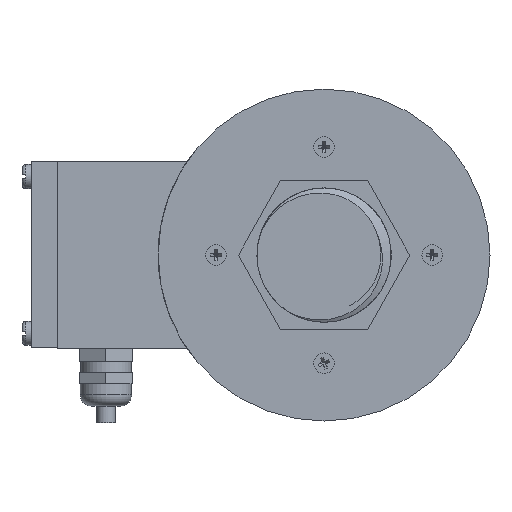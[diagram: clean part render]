
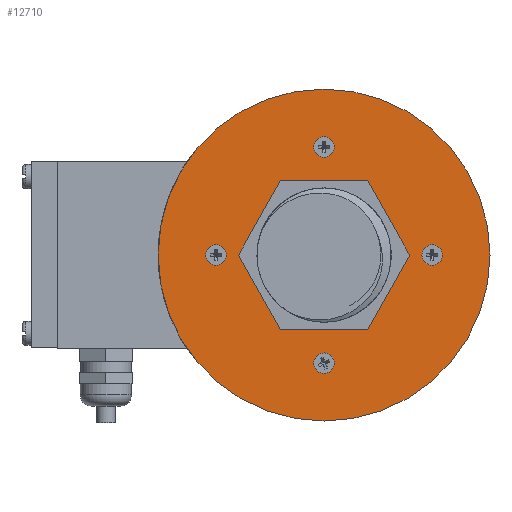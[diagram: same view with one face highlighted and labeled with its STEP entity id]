
A CAD part, front view. The second image highlights one B-rep face of the part: STEP entity #12710.
In plain terms, the highlighted planar face has unit normal (0, -1, 0).
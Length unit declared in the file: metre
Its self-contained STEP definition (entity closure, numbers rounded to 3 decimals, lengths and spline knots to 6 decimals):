
#381 = CARTESIAN_POINT ( 'NONE',  ( -0.01173, 0.003431, 0.00775 ) ) ;
#382 = DIRECTION ( 'NONE',  ( 0., -1., 0. ) ) ;
#383 = DIRECTION ( 'NONE',  ( 0., 0., -1. ) ) ;
#441 = CARTESIAN_POINT ( 'NONE',  ( -0.04073, 0.003431, 0.00775 ) ) ;
#442 = DIRECTION ( 'NONE',  ( 0., 1., 0. ) ) ;
#443 = DIRECTION ( 'NONE',  ( 0., 0., 1. ) ) ;
#504 = CARTESIAN_POINT ( 'NONE',  ( -0.01173, 0.003431, 0.00775 ) ) ;
#506 = DIRECTION ( 'NONE',  ( 0., -1., 0. ) ) ;
#508 = DIRECTION ( 'NONE',  ( 0., 0., -1. ) ) ;
#527 = CARTESIAN_POINT ( 'NONE',  ( -0.01173, 0.003431, 0.03675 ) ) ;
#529 = DIRECTION ( 'NONE',  ( 0., 1., 0. ) ) ;
#531 = DIRECTION ( 'NONE',  ( 0., 0., 1. ) ) ;
#535 = CARTESIAN_POINT ( 'NONE',  ( -0.01173, 0.003431, 0.03675 ) ) ;
#537 = DIRECTION ( 'NONE',  ( 0., 1., 0. ) ) ;
#538 = DIRECTION ( 'NONE',  ( 0., 0., 1. ) ) ;
#805 = CARTESIAN_POINT ( 'NONE',  ( -0.01173, 0.003431, -0.02125 ) ) ;
#806 = DIRECTION ( 'NONE',  ( 0., 1., 0. ) ) ;
#807 = DIRECTION ( 'NONE',  ( 0., 0., 1. ) ) ;
#1263 = CARTESIAN_POINT ( 'NONE',  ( 0.01727, 0.003431, 0.00775 ) ) ;
#1264 = DIRECTION ( 'NONE',  ( 0., -1., 0. ) ) ;
#1265 = DIRECTION ( 'NONE',  ( 0., 0., 1. ) ) ;
#1276 = CARTESIAN_POINT ( 'NONE',  ( 0.01727, 0.003431, 0.00775 ) ) ;
#1277 = DIRECTION ( 'NONE',  ( 0., -1., 0. ) ) ;
#1278 = DIRECTION ( 'NONE',  ( 0., 0., 1. ) ) ;
#1353 = CARTESIAN_POINT ( 'NONE',  ( -0.04073, 0.003431, 0.00775 ) ) ;
#1354 = DIRECTION ( 'NONE',  ( 0., 1., 0. ) ) ;
#1355 = DIRECTION ( 'NONE',  ( 0., 0., 1. ) ) ;
#1365 = CARTESIAN_POINT ( 'NONE',  ( -0.01173, 0.003431, -0.02125 ) ) ;
#1366 = DIRECTION ( 'NONE',  ( 0., 1., 0. ) ) ;
#1367 = DIRECTION ( 'NONE',  ( 0., 0., 1. ) ) ;
#1407 = CARTESIAN_POINT ( 'NONE',  ( -0.04073, 0.003431, 0.0105 ) ) ;
#1433 = CARTESIAN_POINT ( 'NONE',  ( 0.01727, 0.003431, 0.0105 ) ) ;
#1444 = CARTESIAN_POINT ( 'NONE',  ( 0.01727, 0.003431, 0.005 ) ) ;
#1680 = ORIENTED_EDGE ( 'NONE', *, *, #10382, .F. ) ;
#2507 = ORIENTED_EDGE ( 'NONE', *, *, #10383, .T. ) ;
#2523 = ORIENTED_EDGE ( 'NONE', *, *, #10182, .T. ) ;
#2552 = ORIENTED_EDGE ( 'NONE', *, *, #10027, .T. ) ;
#2553 = ORIENTED_EDGE ( 'NONE', *, *, #10077, .T. ) ;
#2567 = ORIENTED_EDGE ( 'NONE', *, *, #10186, .T. ) ;
#2574 = ORIENTED_EDGE ( 'NONE', *, *, #10039, .T. ) ;
#2583 = ORIENTED_EDGE ( 'NONE', *, *, #10044, .T. ) ;
#2584 = ORIENTED_EDGE ( 'NONE', *, *, #10159, .F. ) ;
#2603 = ORIENTED_EDGE ( 'NONE', *, *, #10016, .F. ) ;
#2614 = ORIENTED_EDGE ( 'NONE', *, *, #10164, .F. ) ;
#2675 = ORIENTED_EDGE ( 'NONE', *, *, #10045, .T. ) ;
#3180 = AXIS2_PLACEMENT_3D ( 'NONE', #381, #382, #383 ) ;
#3184 = AXIS2_PLACEMENT_3D ( 'NONE', #441, #442, #443 ) ;
#3187 = AXIS2_PLACEMENT_3D ( 'NONE', #504, #506, #508 ) ;
#3189 = AXIS2_PLACEMENT_3D ( 'NONE', #527, #529, #531 ) ;
#3190 = AXIS2_PLACEMENT_3D ( 'NONE', #535, #537, #538 ) ;
#3195 = AXIS2_PLACEMENT_3D ( 'NONE', #805, #806, #807 ) ;
#3214 = AXIS2_PLACEMENT_3D ( 'NONE', #1263, #1264, #1265 ) ;
#3216 = AXIS2_PLACEMENT_3D ( 'NONE', #1276, #1277, #1278 ) ;
#3220 = AXIS2_PLACEMENT_3D ( 'NONE', #1353, #1354, #1355 ) ;
#3223 = AXIS2_PLACEMENT_3D ( 'NONE', #1365, #1366, #1367 ) ;
#3242 = AXIS2_PLACEMENT_3D ( 'NONE', #4052, #4053, #4054 ) ;
#3243 = AXIS2_PLACEMENT_3D ( 'NONE', #4055, #4056, #4057 ) ;
#3350 = AXIS2_PLACEMENT_3D ( 'NONE', #10935, #10936, #10937 ) ;
#3654 = VERTEX_POINT ( 'NONE', #5326 ) ;
#3771 = VERTEX_POINT ( 'NONE', #5340 ) ;
#4052 = CARTESIAN_POINT ( 'NONE',  ( -0.01173, 0.003431, 0.00775 ) ) ;
#4053 = DIRECTION ( 'NONE',  ( 0., -1., 0. ) ) ;
#4054 = DIRECTION ( 'NONE',  ( 0., 0., -1. ) ) ;
#4055 = CARTESIAN_POINT ( 'NONE',  ( -0.01173, 0.003431, 0.00775 ) ) ;
#4056 = DIRECTION ( 'NONE',  ( 0., -1., 0. ) ) ;
#4057 = DIRECTION ( 'NONE',  ( 0., 0., -1. ) ) ;
#5141 = VERTEX_POINT ( 'NONE', #13082 ) ;
#5156 = VERTEX_POINT ( 'NONE', #13064 ) ;
#5168 = VERTEX_POINT ( 'NONE', #13052 ) ;
#5174 = VERTEX_POINT ( 'NONE', #13045 ) ;
#5326 = CARTESIAN_POINT ( 'NONE',  ( -0.04073, 0.003431, 0.005 ) ) ;
#5340 = CARTESIAN_POINT ( 'NONE',  ( -0.01173, 0.003431, 0.05225 ) ) ;
#5432 = VERTEX_POINT ( 'NONE', #12996 ) ;
#5768 = CIRCLE ( 'NONE', #3214, 0.00275 ) ;
#5774 = CIRCLE ( 'NONE', #3216, 0.00275 ) ;
#5801 = CIRCLE ( 'NONE', #3220, 0.00275 ) ;
#5806 = CIRCLE ( 'NONE', #3223, 0.00275 ) ;
#5967 = CIRCLE ( 'NONE', #3242, 0.0185 ) ;
#5969 = CIRCLE ( 'NONE', #3243, 0.0445 ) ;
#6283 = FACE_BOUND ( 'NONE', #12206, .T. ) ;
#6284 = FACE_BOUND ( 'NONE', #12200, .T. ) ;
#6285 = FACE_BOUND ( 'NONE', #12199, .T. ) ;
#6286 = FACE_BOUND ( 'NONE', #12279, .T. ) ;
#6287 = FACE_BOUND ( 'NONE', #12314, .T. ) ;
#6288 = FACE_OUTER_BOUND ( 'NONE', #12354, .T. ) ;
#10016 = EDGE_CURVE ( 'NONE', #12671, #5156, #12099, .T. ) ;
#10027 = EDGE_CURVE ( 'NONE', #3654, #10213, #12113, .T. ) ;
#10039 = EDGE_CURVE ( 'NONE', #5174, #3771, #12134, .T. ) ;
#10044 = EDGE_CURVE ( 'NONE', #5141, #5168, #12143, .T. ) ;
#10045 = EDGE_CURVE ( 'NONE', #5168, #5141, #12141, .T. ) ;
#10077 = EDGE_CURVE ( 'NONE', #5432, #13469, #12186, .T. ) ;
#10159 = EDGE_CURVE ( 'NONE', #10250, #10239, #5768, .T. ) ;
#10164 = EDGE_CURVE ( 'NONE', #10239, #10250, #5774, .T. ) ;
#10182 = EDGE_CURVE ( 'NONE', #10213, #3654, #5801, .T. ) ;
#10186 = EDGE_CURVE ( 'NONE', #13469, #5432, #5806, .T. ) ;
#10213 = VERTEX_POINT ( 'NONE', #1407 ) ;
#10239 = VERTEX_POINT ( 'NONE', #1433 ) ;
#10250 = VERTEX_POINT ( 'NONE', #1444 ) ;
#10382 = EDGE_CURVE ( 'NONE', #5156, #12671, #5967, .T. ) ;
#10383 = EDGE_CURVE ( 'NONE', #3771, #5174, #5969, .T. ) ;
#10767 = CARTESIAN_POINT ( 'NONE',  ( -0.01173, 0.003431, -0.01075 ) ) ;
#10915 = PLANE ( 'NONE',  #3350 ) ;
#10935 = CARTESIAN_POINT ( 'NONE',  ( -0.05623, 0.003431, 0.00775 ) ) ;
#10936 = DIRECTION ( 'NONE',  ( 0., 1., 0. ) ) ;
#10937 = DIRECTION ( 'NONE',  ( 0., 0., 1. ) ) ;
#11276 = CARTESIAN_POINT ( 'NONE',  ( -0.01173, 0.003431, -0.024 ) ) ;
#12099 = CIRCLE ( 'NONE', #3180, 0.0185 ) ;
#12113 = CIRCLE ( 'NONE', #3184, 0.00275 ) ;
#12134 = CIRCLE ( 'NONE', #3187, 0.0445 ) ;
#12141 = CIRCLE ( 'NONE', #3190, 0.00275 ) ;
#12143 = CIRCLE ( 'NONE', #3189, 0.00275 ) ;
#12186 = CIRCLE ( 'NONE', #3195, 0.00275 ) ;
#12199 = EDGE_LOOP ( 'NONE', ( #1680, #2603 ) ) ;
#12200 = EDGE_LOOP ( 'NONE', ( #2675, #2583 ) ) ;
#12206 = EDGE_LOOP ( 'NONE', ( #2614, #2584 ) ) ;
#12279 = EDGE_LOOP ( 'NONE', ( #2523, #2552 ) ) ;
#12314 = EDGE_LOOP ( 'NONE', ( #2553, #2567 ) ) ;
#12354 = EDGE_LOOP ( 'NONE', ( #2574, #2507 ) ) ;
#12671 = VERTEX_POINT ( 'NONE', #10767 ) ;
#12710 = ADVANCED_FACE ( 'NONE', ( #6283, #6287, #6284, #6286, #6285, #6288 ), #10915, .F. ) ;
#12996 = CARTESIAN_POINT ( 'NONE',  ( -0.01173, 0.003431, -0.0185 ) ) ;
#13045 = CARTESIAN_POINT ( 'NONE',  ( -0.01173, 0.003431, -0.03675 ) ) ;
#13052 = CARTESIAN_POINT ( 'NONE',  ( -0.01173, 0.003431, 0.0395 ) ) ;
#13064 = CARTESIAN_POINT ( 'NONE',  ( -0.01173, 0.003431, 0.02625 ) ) ;
#13082 = CARTESIAN_POINT ( 'NONE',  ( -0.01173, 0.003431, 0.034 ) ) ;
#13469 = VERTEX_POINT ( 'NONE', #11276 ) ;
